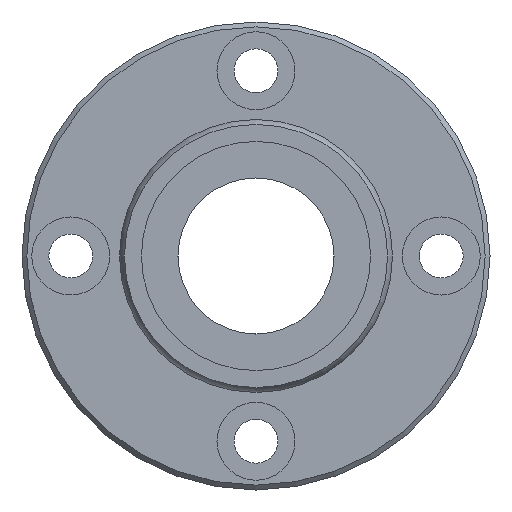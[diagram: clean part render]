
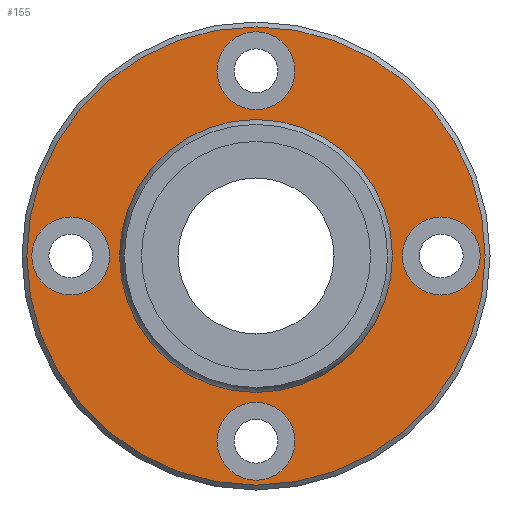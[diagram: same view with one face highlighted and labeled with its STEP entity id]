
A CAD part, left-side view. The second image highlights one B-rep face of the part: STEP entity #155.
In plain terms, the highlighted planar face has unit normal (-1, 0, 0).
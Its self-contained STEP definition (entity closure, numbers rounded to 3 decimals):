
#60=CARTESIAN_POINT('',(36.5,0.,23.5));
#61=VERTEX_POINT('',#60);
#62=CARTESIAN_POINT('',(36.5,0.0,0.0));
#63=DIRECTION('',(1.0,0.0,0.0));
#64=DIRECTION('',(0.0,0.0,-1.0));
#65=AXIS2_PLACEMENT_3D('',#62,#63,#64);
#66=CIRCLE('',#65,23.5);
#67=EDGE_CURVE('',#61,#61,#66,.T.);
#92=CARTESIAN_POINT('',(36.5,0.0,18.887));
#93=DIRECTION('',(-1.0,0.0,0.0));
#94=DIRECTION('',(0.0,0.0,1.0));
#95=AXIS2_PLACEMENT_3D('',#92,#93,#94);
#96=PLANE('',#95);
#97=ORIENTED_EDGE('',*,*,#67,.F.);
#98=EDGE_LOOP('',(#97));
#99=FACE_OUTER_BOUND('',#98,.T.);
#100=CARTESIAN_POINT('',(36.5,0.0,13.773));
#101=VERTEX_POINT('',#100);
#102=CARTESIAN_POINT('',(36.5,0.0,0.0));
#103=DIRECTION('',(-1.0,0.0,0.0));
#104=DIRECTION('',(0.0,0.0,1.0));
#105=AXIS2_PLACEMENT_3D('',#102,#103,#104);
#106=CIRCLE('',#105,13.773);
#107=EDGE_CURVE('',#101,#101,#106,.T.);
#108=ORIENTED_EDGE('',*,*,#107,.F.);
#109=EDGE_LOOP('',(#108));
#110=FACE_BOUND('',#109,.T.);
#111=CARTESIAN_POINT('',(36.5,-15.0,0.));
#112=VERTEX_POINT('',#111);
#113=CARTESIAN_POINT('',(36.5,-19.0,0.));
#114=DIRECTION('',(1.0,0.0,0.0));
#115=DIRECTION('',(0.0,1.0,0.0));
#116=AXIS2_PLACEMENT_3D('',#113,#114,#115);
#117=CIRCLE('',#116,4.0);
#118=EDGE_CURVE('',#112,#112,#117,.T.);
#119=ORIENTED_EDGE('',*,*,#118,.T.);
#120=EDGE_LOOP('',(#119));
#121=FACE_BOUND('',#120,.T.);
#122=CARTESIAN_POINT('',(36.5,23.,0.));
#123=VERTEX_POINT('',#122);
#124=CARTESIAN_POINT('',(36.5,19.0,0.));
#125=DIRECTION('',(1.0,0.0,0.0));
#126=DIRECTION('',(0.0,1.0,0.0));
#127=AXIS2_PLACEMENT_3D('',#124,#125,#126);
#128=CIRCLE('',#127,4.0);
#129=EDGE_CURVE('',#123,#123,#128,.T.);
#130=ORIENTED_EDGE('',*,*,#129,.T.);
#131=EDGE_LOOP('',(#130));
#132=FACE_BOUND('',#131,.T.);
#133=CARTESIAN_POINT('',(36.5,4.,19.0));
#134=VERTEX_POINT('',#133);
#135=CARTESIAN_POINT('',(36.5,0.,19.0));
#136=DIRECTION('',(1.0,0.0,0.0));
#137=DIRECTION('',(0.0,1.0,0.0));
#138=AXIS2_PLACEMENT_3D('',#135,#136,#137);
#139=CIRCLE('',#138,4.0);
#140=EDGE_CURVE('',#134,#134,#139,.T.);
#141=ORIENTED_EDGE('',*,*,#140,.T.);
#142=EDGE_LOOP('',(#141));
#143=FACE_BOUND('',#142,.T.);
#144=CARTESIAN_POINT('',(36.5,4.,-19.0));
#145=VERTEX_POINT('',#144);
#146=CARTESIAN_POINT('',(36.5,0.,-19.0));
#147=DIRECTION('',(1.0,0.0,0.0));
#148=DIRECTION('',(0.0,1.0,0.0));
#149=AXIS2_PLACEMENT_3D('',#146,#147,#148);
#150=CIRCLE('',#149,4.0);
#151=EDGE_CURVE('',#145,#145,#150,.T.);
#152=ORIENTED_EDGE('',*,*,#151,.T.);
#153=EDGE_LOOP('',(#152));
#154=FACE_BOUND('',#153,.T.);
#155=ADVANCED_FACE('',(#99,#110,#121,#132,#143,#154),#96,.T.);
